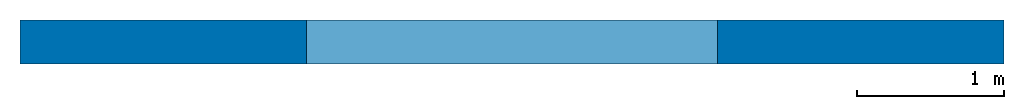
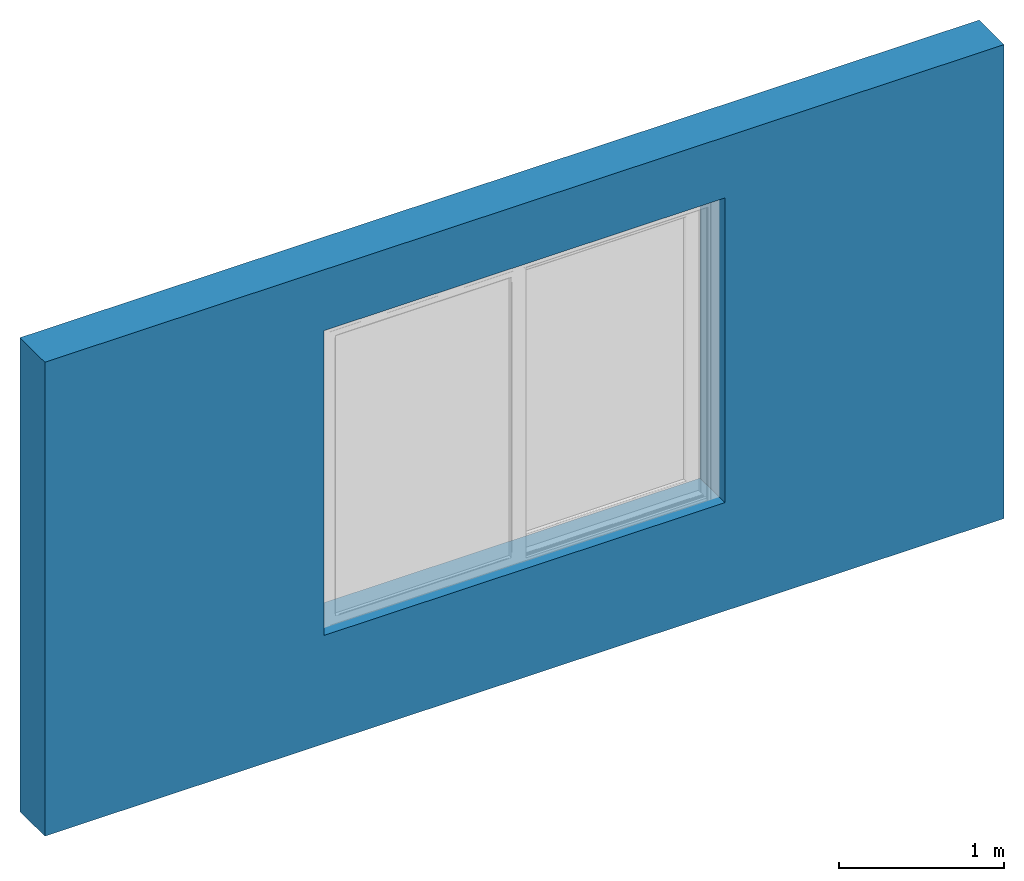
# One storey, incomplete: 1 wall, 1 opening.
"""IFC2X3 building model written with IfcOpenShell, lengths in metres."""

from ifc_helpers import new_model, entity, si_unit, converted_unit, derived_unit, direction, frame, frame_2d, origin, place, context, subcontext, project, spatial, rectangle, extrude, material, layer, layer_set, layer_usage, type_object, element, save


model = new_model("IFC2X3")

# Units and contexts
model_context = context("Model", 3, precision=1e-05, world=origin(), true_north=direction((6.12303176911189e-17, 1.0)))
body_context = subcontext(model_context, "Body", "Model", "MODEL_VIEW")
ifc_project = project(units=[si_unit("LENGTHUNIT", "METRE"), si_unit("AREAUNIT", "SQUARE_METRE"), si_unit("VOLUMEUNIT", "CUBIC_METRE"), converted_unit("PLANEANGLEUNIT", "DEGREE", entity("IfcRatioMeasure", 0.0174532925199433), si_unit("PLANEANGLEUNIT", "RADIAN"), dimensions=[0, 0, 0, 0, 0, 0, 0]), si_unit("MASSUNIT", "GRAM", prefix="KILO"), derived_unit("MASSDENSITYUNIT", [(si_unit("MASSUNIT", "GRAM", prefix="KILO"), 1), (si_unit("LENGTHUNIT", "METRE"), -3)]), si_unit("TIMEUNIT", "SECOND"), si_unit("FREQUENCYUNIT", "HERTZ"), si_unit("THERMODYNAMICTEMPERATUREUNIT", "DEGREE_CELSIUS"), derived_unit("THERMALTRANSMITTANCEUNIT", [(si_unit("MASSUNIT", "GRAM", prefix="KILO"), 1), (si_unit("THERMODYNAMICTEMPERATUREUNIT", "KELVIN"), -1), (si_unit("TIMEUNIT", "SECOND"), -3)]), derived_unit("VOLUMETRICFLOWRATEUNIT", [(si_unit("LENGTHUNIT", "METRE"), 3), (si_unit("TIMEUNIT", "SECOND"), -1)]), si_unit("ELECTRICCURRENTUNIT", "AMPERE"), si_unit("ELECTRICVOLTAGEUNIT", "VOLT"), si_unit("POWERUNIT", "WATT"), si_unit("FORCEUNIT", "NEWTON", prefix="KILO"), si_unit("ILLUMINANCEUNIT", "LUX"), si_unit("LUMINOUSFLUXUNIT", "LUMEN"), si_unit("LUMINOUSINTENSITYUNIT", "CANDELA"), derived_unit("USERDEFINED", [(si_unit("MASSUNIT", "GRAM", prefix="KILO"), -1), (si_unit("LENGTHUNIT", "METRE"), -2), (si_unit("TIMEUNIT", "SECOND"), 3), (si_unit("LUMINOUSFLUXUNIT", "LUMEN"), 1)]), derived_unit("LINEARVELOCITYUNIT", [(si_unit("LENGTHUNIT", "METRE"), 1), (si_unit("TIMEUNIT", "SECOND"), -1)]), si_unit("PRESSUREUNIT", "PASCAL"), derived_unit("USERDEFINED", [(si_unit("LENGTHUNIT", "METRE"), -2), (si_unit("MASSUNIT", "GRAM", prefix="KILO"), 1), (si_unit("TIMEUNIT", "SECOND"), -2)])], contexts=[model_context])

# Site, building, storey
site_placement = place(None, origin())
site = spatial("IfcSite", under=ifc_project, at=site_placement, Name="Default", CompositionType="ELEMENT")
building_placement = place(site_placement, origin())
building = spatial("IfcBuilding", under=site, at=building_placement, CompositionType="ELEMENT")
storey_placement = place(building_placement, origin())
storey = spatial("IfcBuildingStorey", under=building, at=storey_placement, Name="0 - Piano Terra", CompositionType="ELEMENT", Elevation=0.0)

# Wall, opening
ifc_material = material(Name="Default - Muro")
ifc_layer = layer(ifc_material, 0.3)
ifc_layer_set = layer_set([ifc_layer], Name="Muro di base:Generico - 30 cm")
ifc_layer_usage = layer_usage(ifc_layer_set, "AXIS2", "NEGATIVE", 0.15)
wall_type = type_object("IfcWallType", Name="Muro di base:Generico - 30 cm", PredefinedType="STANDARD", material=ifc_layer_set)
wall_placement = place(storey_placement, frame((-7.48897415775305, 1.39167262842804, 0.0)))
wall = element("IfcWallStandardCase", 1, at=wall_placement, inside=storey, type_object=wall_type, material=ifc_layer_usage, Name="Muro di base:Generico - 30 cm", ObjectType="Muro di base:Generico - 30 cm:952", context=body_context, shape_type="SweptSolid", body=[
    extrude(rectangle(XDim=6.7, YDim=0.3, at=frame_2d((3.35, -5.55111512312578e-17), x_axis=(-1.0, 0.0))), origin(), (0.0, 0.0, 1.0), 3.5),
])
opening_placement = place(wall_placement, frame((4.75, 0.149999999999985, 0.799999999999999)))
element("IfcOpeningElement", 2, at=opening_placement, cuts=wall, Name="HST Vision Minimal:HST Vision Minimal:1", ObjectType="Opening", context=body_context, shape_type="SweptSolid", body=[
    extrude(rectangle(XDim=2.25, YDim=2.8, at=frame_2d((1.125, 1.4), x_axis=(1.0, 0.0))), frame((0.0, 0.0, 0.0), z_axis=(0.0, -1.0, 0.0), x_axis=(0.0, 0.0, 1.0)), (0.0, 0.0, 1.0), 0.3),
])

save(model, "model.ifc")
